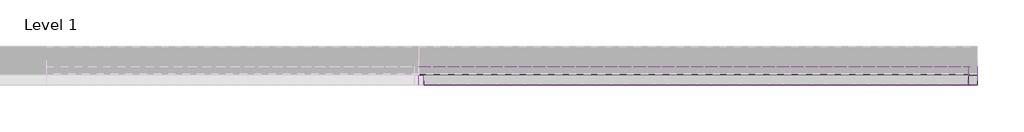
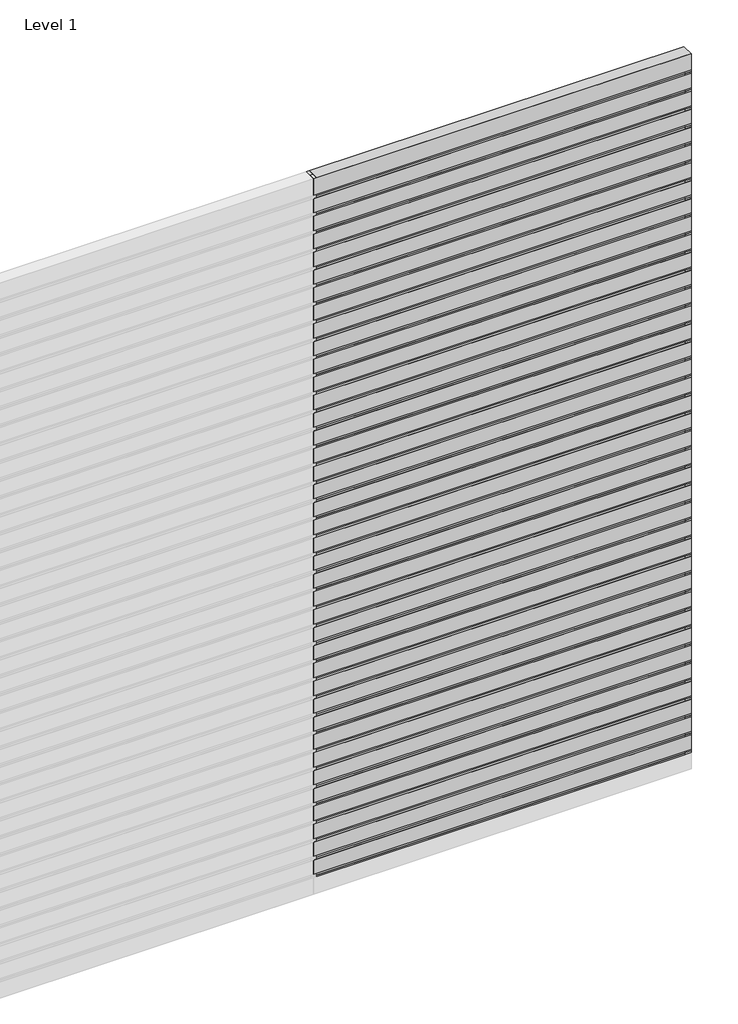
# One storey, part 3 of 3: 79 plates, 40 members.
"""IFC4 building model written with IfcOpenShell, lengths in millimetres."""

import ifcopenshell
import ifcopenshell.guid

model = None  # the IFC model being written
_history = None  # IfcOwnerHistory: only IFC2X3 demands one
_inside = {}  # id of a spatial element -> (the spatial element, [elements in it])
_under = {}  # id of a project, library or spatial element -> (it, [spatial elements below it])
_declared = {}  # id of a project -> (the project, [libraries it declares])
_typed = {}  # id of a type object -> (the type object, [elements of that type])
_made_of = {}  # id of a material, layer set ... -> (it, [elements and type objects made of it])


def new_model(schema):
    """Start an empty IFC model of exactly this schema.

    Asked for "IFC4X3", IfcOpenShell would pick the latest addendum, in which some entities
    have other attributes; the version numbers below select the first issue.
    IFC2X3 requires an IfcOwnerHistory on every rooted entity: one is made here for all.
    """
    global model, _history
    if schema == "IFC4X3":
        model = ifcopenshell.file(schema_version=(4, 3, 0, 0))
    else:
        model = ifcopenshell.file(schema=schema)
    _inside.clear()
    _under.clear()
    _declared.clear()
    _typed.clear()
    _made_of.clear()
    _history = None
    if model.schema == "IFC2X3":
        org = make("IfcOrganization", Name="unknown")
        user = make(
            "IfcPersonAndOrganization",
            ThePerson=make("IfcPerson", FamilyName="unknown"),
            TheOrganization=org,
        )
        app = make(
            "IfcApplication",
            ApplicationDeveloper=org,
            Version="unknown",
            ApplicationFullName="unknown",
            ApplicationIdentifier="unknown",
        )
        _history = make(
            "IfcOwnerHistory",
            OwningUser=user,
            OwningApplication=app,
            ChangeAction="ADDED",
            CreationDate=0,
        )
    return model


def make(cls, **values):
    """One entity of the class cls with the attributes given. An attribute that is None is left unset."""
    return model.create_entity(
        cls, **{name: value for name, value in values.items() if value is not None}
    )


def rooted(cls, **values):
    """An entity with a GlobalId (a new one), such as an element, a storey or a relation."""
    return make(cls, GlobalId=ifcopenshell.guid.new(), OwnerHistory=_history, **values)


def si_unit(unit_type, name, prefix=None):
    """IfcSIUnit, for example si_unit("LENGTHUNIT", "METRE", prefix="MILLI")."""
    return make("IfcSIUnit", UnitType=unit_type, Prefix=prefix, Name=name)


def assignment(units):
    """IfcUnitAssignment: the units of a project."""
    return None if units is None else make("IfcUnitAssignment", Units=units)


def point(xyz):
    """IfcCartesianPoint."""
    return None if xyz is None else make("IfcCartesianPoint", Coordinates=xyz)


def direction(xyz):
    """IfcDirection."""
    return None if xyz is None else make("IfcDirection", DirectionRatios=xyz)


def frame(location, z_axis=None, x_axis=None):
    """IfcAxis2Placement3D, a coordinate frame: its origin and axes. An axis left out is left unset."""
    return make(
        "IfcAxis2Placement3D",
        Location=point(location),
        Axis=direction(z_axis),
        RefDirection=direction(x_axis),
    )


def origin():
    """The frame at (0, 0, 0) with its axes left unset."""
    return frame((0.0, 0.0, 0.0))


def origin_with_axes():
    """The frame at (0, 0, 0) with the z axis (0, 0, 1) and the x axis (1, 0, 0) written out."""
    return frame((0.0, 0.0, 0.0), z_axis=(0.0, 0.0, 1.0), x_axis=(1.0, 0.0, 0.0))


def place(relative_to, where):
    """IfcLocalPlacement: puts the frame where relative to a parent placement (None: the world)."""
    return make(
        "IfcLocalPlacement", PlacementRelTo=relative_to, RelativePlacement=where
    )


def context(
    kind, dimensions, precision=None, world=None, true_north=None, identifier=None
):
    """IfcGeometricRepresentationContext, for example the 3D "Model" context."""
    return make(
        "IfcGeometricRepresentationContext",
        ContextIdentifier=identifier,
        ContextType=kind,
        CoordinateSpaceDimension=dimensions,
        Precision=precision,
        WorldCoordinateSystem=world,
        TrueNorth=true_north,
    )


def project(units=None, contexts=None):
    """IfcProject with its units and contexts."""
    return rooted(
        "IfcProject",
        Name="project",
        RepresentationContexts=contexts,
        UnitsInContext=assignment(units),
    )


def spatial(cls, under=None, at=None, **own):
    """A site, building, storey or space (cls), placed at a placement, below another one or the project."""
    s = rooted(cls, ObjectPlacement=at, **own)
    if under is not None:
        _under.setdefault(under.id(), (under, []))[1].append(s)
    return s


def polyline(points):
    """IfcPolyline through the points."""
    return make("IfcPolyline", Points=[point(p) for p in points])


def outline(outer, holes=None, kind="AREA"):
    """IfcArbitraryClosedProfileDef: a profile drawn as a closed curve; with holes, ...WithVoids."""
    if holes is None:
        return make("IfcArbitraryClosedProfileDef", ProfileType=kind, OuterCurve=outer)
    return make(
        "IfcArbitraryProfileDefWithVoids",
        ProfileType=kind,
        OuterCurve=outer,
        InnerCurves=holes,
    )


def extrude(swept, where, along, depth):
    """IfcExtrudedAreaSolid: the profile swept, set in the frame where, extruded along a direction by depth."""
    return make(
        "IfcExtrudedAreaSolid",
        SweptArea=swept,
        Position=where,
        ExtrudedDirection=direction(along),
        Depth=depth,
    )


def shape(context_of_items, identifier, shape_type, items):
    """IfcShapeRepresentation: the items that make up one representation, for example the "Body"."""
    return make(
        "IfcShapeRepresentation",
        ContextOfItems=context_of_items,
        RepresentationIdentifier=identifier,
        RepresentationType=shape_type,
        Items=items,
    )


def source(mapping_origin, context_of_items, identifier, shape_type, items):
    """IfcRepresentationMap: a shape defined once, which mapped items show again and again."""
    return make(
        "IfcRepresentationMap",
        MappingOrigin=mapping_origin,
        MappedRepresentation=shape(context_of_items, identifier, shape_type, items),
    )


def transform(
    local_origin,
    x_axis=None,
    y_axis=None,
    z_axis=None,
    scale=None,
    scale2=None,
    scale3=None,
    uniform=True,
):
    """IfcCartesianTransformationOperator3D, or its non-uniform kind. x_axis, y_axis, z_axis: its Axis1, 2, 3."""
    if uniform:
        return make(
            "IfcCartesianTransformationOperator3D",
            Axis1=direction(x_axis),
            Axis2=direction(y_axis),
            LocalOrigin=point(local_origin),
            Scale=scale,
            Axis3=direction(z_axis),
        )
    return make(
        "IfcCartesianTransformationOperator3DnonUniform",
        Axis1=direction(x_axis),
        Axis2=direction(y_axis),
        LocalOrigin=point(local_origin),
        Scale=scale,
        Axis3=direction(z_axis),
        Scale2=scale2,
        Scale3=scale3,
    )


def mapped(mapping_source, mapping_target):
    """IfcMappedItem: shows the shape of a source again, moved by a transform."""
    return make(
        "IfcMappedItem", MappingSource=mapping_source, MappingTarget=mapping_target
    )


def made_of(thing, what):
    """Note that an element or type object is made of a material, layer set ...; save() writes the relation."""
    if what is not None:
        _made_of.setdefault(what.id(), (what, []))[1].append(thing)
    return thing


def element(
    cls,
    number,
    at=None,
    inside=None,
    cuts=None,
    type_object=None,
    material=None,
    context=None,
    identifier="Body",
    shape_type=None,
    held_by="IfcProductDefinitionShape",
    body=None,
    shapes=None,
    **own,
):
    """One element of the class cls, such as IfcWall. Its Tag is "e" and its number.

    at: its placement. inside: the storey or other place that contains it. cuts: it is an
    opening in that element (IfcRelVoidsElement). A single representation is given by context,
    identifier, shape_type and body (its items); several are given by shapes. held_by: the class
    of the entity that holds the representations. save() writes the other relations.
    """
    e = rooted(cls, Tag="e%d" % number, ObjectPlacement=at, **own)
    if body is not None:
        shapes = [shape(context, identifier, shape_type, body)]
    if shapes is not None:
        e.Representation = make(held_by, Representations=shapes)
    if inside is not None:
        _inside.setdefault(inside.id(), (inside, []))[1].append(e)
    if cuts is not None:
        rooted(
            "IfcRelVoidsElement", RelatingBuildingElement=cuts, RelatedOpeningElement=e
        )
    if type_object is not None:
        _typed.setdefault(type_object.id(), (type_object, []))[1].append(e)
    return made_of(e, material)


def aggregate(whole, parts):
    """IfcRelAggregates: a whole, such as a stair, and the parts it consists of."""
    return rooted("IfcRelAggregates", RelatingObject=whole, RelatedObjects=parts)


def save(model, path):
    """Write the relations noted so far, then the file.

    IfcRelAggregates (storeys below a building ...), IfcRelContainedInSpatialStructure (elements
    in a storey), IfcRelDefinesByType, IfcRelAssociatesMaterial and IfcRelDeclares: one each for
    every whole, place, type object, material and project.
    """
    for whole, parts in _under.values():
        aggregate(whole, parts)
    for where, things in _inside.values():
        rooted(
            "IfcRelContainedInSpatialStructure",
            RelatedElements=things,
            RelatingStructure=where,
        )
    for kind, things in _typed.values():
        rooted("IfcRelDefinesByType", RelatedObjects=things, RelatingType=kind)
    for what, things in _made_of.values():
        rooted("IfcRelAssociatesMaterial", RelatedObjects=things, RelatingMaterial=what)
    for by, libraries in _declared.values():
        rooted("IfcRelDeclares", RelatingContext=by, RelatedDefinitions=libraries)
    model.write(path)


def rectangular_mullion_64cc6fdd(model_context):
    return source(origin(), model_context, "Body", "SweptSolid", [
        extrude(outline(polyline([(-50.0, 1.0), (0.0, 1.0), (0.0, -49.0), (-50.0, -49.0), (-50.0, 1.0)])), frame((0.0, 0.0, -150.0), z_axis=(0.0, 0.0, 1.0), x_axis=(1.0, 0.0, 0.0)), (0.0, 0.0, 1.0), 150.0),
    ])


def empty_system_panel_empty_50652f15(model_context):
    return source(origin(), model_context, "Body", "SweptSolid", [
        extrude(outline(polyline([(1500.0, -50.0), (-1500.0, -50.0), (-1500.0, 50.0), (1500.0, 50.0), (1500.0, -50.0)])), origin_with_axes(), (0.0, 0.0, 1.0), 135.0),
    ])


def empty_system_panel_empty_6fa24678(model_context):
    return source(origin(), model_context, "Body", "SweptSolid", [
        extrude(outline(polyline([(1500.0, -50.0), (-1500.0, -50.0), (-1500.0, 50.0), (1500.0, 50.0), (1500.0, -50.0)])), origin_with_axes(), (0.0, 0.0, 1.0), 120.0),
    ])


def empty_system_panel_empty_149e9d60(model_context):
    return source(origin(), model_context, "Body", "SweptSolid", [
        extrude(outline(polyline([(1462.5, -50.0), (-1462.5, -50.0), (-1462.5, 50.0), (1462.5, 50.0), (1462.5, -50.0)])), origin_with_axes(), (0.0, 0.0, 1.0), 150.0),
    ])


model = new_model("IFC4")

# Units and contexts
model_context = context("Model", 3, world=origin())
ifc_project = project(units=[si_unit("LENGTHUNIT", "METRE", prefix="MILLI")], contexts=[model_context])

# Site, building, storey
site = spatial("IfcSite", under=ifc_project)
building = spatial("IfcBuilding", under=site)
storey = spatial("IfcBuildingStorey", under=building, Name="Level 1", Elevation=0.0)

# Members
placement = place(None, origin())
rectangular_mullion_shape = rectangular_mullion_64cc6fdd(model_context)
element("IfcMember", 1, ObjectType="Rectangular Mullion : RSen_21_CWM_support profile 50x50 - right_gen_duco projects", at=placement, inside=storey, context=model_context, shape_type="MappedRepresentation", body=[
    mapped(rectangular_mullion_shape, transform((6000.0, 3000.0, 6000.0), x_axis=(1.0, 0.0, 0.0), y_axis=(0.0, 1.0, 0.0), z_axis=(0.0, 0.0, 1.0))),
])
element("IfcMember", 2, ObjectType="Rectangular Mullion : RSen_21_CWM_support profile 50x50 - right_gen_duco projects", at=placement, inside=storey, context=model_context, shape_type="MappedRepresentation", body=[
    mapped(rectangular_mullion_shape, transform((6000.0, 3000.0, 150.0), x_axis=(1.0, 0.0, 0.0), y_axis=(0.0, 1.0, 0.0), z_axis=(0.0, 0.0, 1.0))),
])
element("IfcMember", 3, ObjectType="Rectangular Mullion : RSen_21_CWM_support profile 50x50 - right_gen_duco projects", at=placement, inside=storey, context=model_context, shape_type="MappedRepresentation", body=[
    mapped(rectangular_mullion_shape, transform((6000.0, 3000.0, 300.0), x_axis=(1.0, 0.0, 0.0), y_axis=(0.0, 1.0, 0.0), z_axis=(0.0, 0.0, 1.0))),
])
element("IfcMember", 4, ObjectType="Rectangular Mullion : RSen_21_CWM_support profile 50x50 - right_gen_duco projects", at=placement, inside=storey, context=model_context, shape_type="MappedRepresentation", body=[
    mapped(rectangular_mullion_shape, transform((6000.0, 3000.0, 450.0), x_axis=(1.0, 0.0, 0.0), y_axis=(0.0, 1.0, 0.0), z_axis=(0.0, 0.0, 1.0))),
])
element("IfcMember", 5, ObjectType="Rectangular Mullion : RSen_21_CWM_support profile 50x50 - right_gen_duco projects", at=placement, inside=storey, context=model_context, shape_type="MappedRepresentation", body=[
    mapped(rectangular_mullion_shape, transform((6000.0, 3000.0, 600.0), x_axis=(1.0, 0.0, 0.0), y_axis=(0.0, 1.0, 0.0), z_axis=(0.0, 0.0, 1.0))),
])
element("IfcMember", 6, ObjectType="Rectangular Mullion : RSen_21_CWM_support profile 50x50 - right_gen_duco projects", at=placement, inside=storey, context=model_context, shape_type="MappedRepresentation", body=[
    mapped(rectangular_mullion_shape, transform((6000.0, 3000.0, 750.0), x_axis=(1.0, 0.0, 0.0), y_axis=(0.0, 1.0, 0.0), z_axis=(0.0, 0.0, 1.0))),
])
element("IfcMember", 7, ObjectType="Rectangular Mullion : RSen_21_CWM_support profile 50x50 - right_gen_duco projects", at=placement, inside=storey, context=model_context, shape_type="MappedRepresentation", body=[
    mapped(rectangular_mullion_shape, transform((6000.0, 3000.0, 900.0), x_axis=(1.0, 0.0, 0.0), y_axis=(0.0, 1.0, 0.0), z_axis=(0.0, 0.0, 1.0))),
])
element("IfcMember", 8, ObjectType="Rectangular Mullion : RSen_21_CWM_support profile 50x50 - right_gen_duco projects", at=placement, inside=storey, context=model_context, shape_type="MappedRepresentation", body=[
    mapped(rectangular_mullion_shape, transform((6000.0, 3000.0, 1050.0), x_axis=(1.0, 0.0, 0.0), y_axis=(0.0, 1.0, 0.0), z_axis=(0.0, 0.0, 1.0))),
])
element("IfcMember", 9, ObjectType="Rectangular Mullion : RSen_21_CWM_support profile 50x50 - right_gen_duco projects", at=placement, inside=storey, context=model_context, shape_type="MappedRepresentation", body=[
    mapped(rectangular_mullion_shape, transform((6000.0, 3000.0, 1200.0), x_axis=(1.0, 0.0, 0.0), y_axis=(0.0, 1.0, 0.0), z_axis=(0.0, 0.0, 1.0))),
])
element("IfcMember", 10, ObjectType="Rectangular Mullion : RSen_21_CWM_support profile 50x50 - right_gen_duco projects", at=placement, inside=storey, context=model_context, shape_type="MappedRepresentation", body=[
    mapped(rectangular_mullion_shape, transform((6000.0, 3000.0, 1350.0), x_axis=(1.0, 0.0, 0.0), y_axis=(0.0, 1.0, 0.0), z_axis=(0.0, 0.0, 1.0))),
])
element("IfcMember", 11, ObjectType="Rectangular Mullion : RSen_21_CWM_support profile 50x50 - right_gen_duco projects", at=placement, inside=storey, context=model_context, shape_type="MappedRepresentation", body=[
    mapped(rectangular_mullion_shape, transform((6000.0, 3000.0, 1500.0), x_axis=(1.0, 0.0, 0.0), y_axis=(0.0, 1.0, 0.0), z_axis=(0.0, 0.0, 1.0))),
])
element("IfcMember", 12, ObjectType="Rectangular Mullion : RSen_21_CWM_support profile 50x50 - right_gen_duco projects", at=placement, inside=storey, context=model_context, shape_type="MappedRepresentation", body=[
    mapped(rectangular_mullion_shape, transform((6000.0, 3000.0, 1650.0), x_axis=(1.0, 0.0, 0.0), y_axis=(0.0, 1.0, 0.0), z_axis=(0.0, 0.0, 1.0))),
])
element("IfcMember", 13, ObjectType="Rectangular Mullion : RSen_21_CWM_support profile 50x50 - right_gen_duco projects", at=placement, inside=storey, context=model_context, shape_type="MappedRepresentation", body=[
    mapped(rectangular_mullion_shape, transform((6000.0, 3000.0, 1800.0), x_axis=(1.0, 0.0, 0.0), y_axis=(0.0, 1.0, 0.0), z_axis=(0.0, 0.0, 1.0))),
])
element("IfcMember", 14, ObjectType="Rectangular Mullion : RSen_21_CWM_support profile 50x50 - right_gen_duco projects", at=placement, inside=storey, context=model_context, shape_type="MappedRepresentation", body=[
    mapped(rectangular_mullion_shape, transform((6000.0, 3000.0, 1950.0), x_axis=(1.0, 0.0, 0.0), y_axis=(0.0, 1.0, 0.0), z_axis=(0.0, 0.0, 1.0))),
])
element("IfcMember", 15, ObjectType="Rectangular Mullion : RSen_21_CWM_support profile 50x50 - right_gen_duco projects", at=placement, inside=storey, context=model_context, shape_type="MappedRepresentation", body=[
    mapped(rectangular_mullion_shape, transform((6000.0, 3000.0, 2100.0), x_axis=(1.0, 0.0, 0.0), y_axis=(0.0, 1.0, 0.0), z_axis=(0.0, 0.0, 1.0))),
])
element("IfcMember", 16, ObjectType="Rectangular Mullion : RSen_21_CWM_support profile 50x50 - right_gen_duco projects", at=placement, inside=storey, context=model_context, shape_type="MappedRepresentation", body=[
    mapped(rectangular_mullion_shape, transform((6000.0, 3000.0, 2250.0), x_axis=(1.0, 0.0, 0.0), y_axis=(0.0, 1.0, 0.0), z_axis=(0.0, 0.0, 1.0))),
])
element("IfcMember", 17, ObjectType="Rectangular Mullion : RSen_21_CWM_support profile 50x50 - right_gen_duco projects", at=placement, inside=storey, context=model_context, shape_type="MappedRepresentation", body=[
    mapped(rectangular_mullion_shape, transform((6000.0, 3000.0, 2400.0), x_axis=(1.0, 0.0, 0.0), y_axis=(0.0, 1.0, 0.0), z_axis=(0.0, 0.0, 1.0))),
])
element("IfcMember", 18, ObjectType="Rectangular Mullion : RSen_21_CWM_support profile 50x50 - right_gen_duco projects", at=placement, inside=storey, context=model_context, shape_type="MappedRepresentation", body=[
    mapped(rectangular_mullion_shape, transform((6000.0, 3000.0, 2550.0), x_axis=(1.0, 0.0, 0.0), y_axis=(0.0, 1.0, 0.0), z_axis=(0.0, 0.0, 1.0))),
])
element("IfcMember", 19, ObjectType="Rectangular Mullion : RSen_21_CWM_support profile 50x50 - right_gen_duco projects", at=placement, inside=storey, context=model_context, shape_type="MappedRepresentation", body=[
    mapped(rectangular_mullion_shape, transform((6000.0, 3000.0, 2700.0), x_axis=(1.0, 0.0, 0.0), y_axis=(0.0, 1.0, 0.0), z_axis=(0.0, 0.0, 1.0))),
])
element("IfcMember", 20, ObjectType="Rectangular Mullion : RSen_21_CWM_support profile 50x50 - right_gen_duco projects", at=placement, inside=storey, context=model_context, shape_type="MappedRepresentation", body=[
    mapped(rectangular_mullion_shape, transform((6000.0, 3000.0, 2850.0), x_axis=(1.0, 0.0, 0.0), y_axis=(0.0, 1.0, 0.0), z_axis=(0.0, 0.0, 1.0))),
])
element("IfcMember", 21, ObjectType="Rectangular Mullion : RSen_21_CWM_support profile 50x50 - right_gen_duco projects", at=placement, inside=storey, context=model_context, shape_type="MappedRepresentation", body=[
    mapped(rectangular_mullion_shape, transform((6000.0, 3000.0, 3000.0), x_axis=(1.0, 0.0, 0.0), y_axis=(0.0, 1.0, 0.0), z_axis=(0.0, 0.0, 1.0))),
])
element("IfcMember", 22, ObjectType="Rectangular Mullion : RSen_21_CWM_support profile 50x50 - right_gen_duco projects", at=placement, inside=storey, context=model_context, shape_type="MappedRepresentation", body=[
    mapped(rectangular_mullion_shape, transform((6000.0, 3000.0, 3150.0), x_axis=(1.0, 0.0, 0.0), y_axis=(0.0, 1.0, 0.0), z_axis=(0.0, 0.0, 1.0))),
])
element("IfcMember", 23, ObjectType="Rectangular Mullion : RSen_21_CWM_support profile 50x50 - right_gen_duco projects", at=placement, inside=storey, context=model_context, shape_type="MappedRepresentation", body=[
    mapped(rectangular_mullion_shape, transform((6000.0, 3000.0, 3300.0), x_axis=(1.0, 0.0, 0.0), y_axis=(0.0, 1.0, 0.0), z_axis=(0.0, 0.0, 1.0))),
])
element("IfcMember", 24, ObjectType="Rectangular Mullion : RSen_21_CWM_support profile 50x50 - right_gen_duco projects", at=placement, inside=storey, context=model_context, shape_type="MappedRepresentation", body=[
    mapped(rectangular_mullion_shape, transform((6000.0, 3000.0, 3450.0), x_axis=(1.0, 0.0, 0.0), y_axis=(0.0, 1.0, 0.0), z_axis=(0.0, 0.0, 1.0))),
])
element("IfcMember", 25, ObjectType="Rectangular Mullion : RSen_21_CWM_support profile 50x50 - right_gen_duco projects", at=placement, inside=storey, context=model_context, shape_type="MappedRepresentation", body=[
    mapped(rectangular_mullion_shape, transform((6000.0, 3000.0, 3600.0), x_axis=(1.0, 0.0, 0.0), y_axis=(0.0, 1.0, 0.0), z_axis=(0.0, 0.0, 1.0))),
])
element("IfcMember", 26, ObjectType="Rectangular Mullion : RSen_21_CWM_support profile 50x50 - right_gen_duco projects", at=placement, inside=storey, context=model_context, shape_type="MappedRepresentation", body=[
    mapped(rectangular_mullion_shape, transform((6000.0, 3000.0, 3750.0), x_axis=(1.0, 0.0, 0.0), y_axis=(0.0, 1.0, 0.0), z_axis=(0.0, 0.0, 1.0))),
])
element("IfcMember", 27, ObjectType="Rectangular Mullion : RSen_21_CWM_support profile 50x50 - right_gen_duco projects", at=placement, inside=storey, context=model_context, shape_type="MappedRepresentation", body=[
    mapped(rectangular_mullion_shape, transform((6000.0, 3000.0, 3900.0), x_axis=(1.0, 0.0, 0.0), y_axis=(0.0, 1.0, 0.0), z_axis=(0.0, 0.0, 1.0))),
])
element("IfcMember", 28, ObjectType="Rectangular Mullion : RSen_21_CWM_support profile 50x50 - right_gen_duco projects", at=placement, inside=storey, context=model_context, shape_type="MappedRepresentation", body=[
    mapped(rectangular_mullion_shape, transform((6000.0, 3000.0, 4050.0), x_axis=(1.0, 0.0, 0.0), y_axis=(0.0, 1.0, 0.0), z_axis=(0.0, 0.0, 1.0))),
])
element("IfcMember", 29, ObjectType="Rectangular Mullion : RSen_21_CWM_support profile 50x50 - right_gen_duco projects", at=placement, inside=storey, context=model_context, shape_type="MappedRepresentation", body=[
    mapped(rectangular_mullion_shape, transform((6000.0, 3000.0, 4200.0), x_axis=(1.0, 0.0, 0.0), y_axis=(0.0, 1.0, 0.0), z_axis=(0.0, 0.0, 1.0))),
])
element("IfcMember", 30, ObjectType="Rectangular Mullion : RSen_21_CWM_support profile 50x50 - right_gen_duco projects", at=placement, inside=storey, context=model_context, shape_type="MappedRepresentation", body=[
    mapped(rectangular_mullion_shape, transform((6000.0, 3000.0, 4350.0), x_axis=(1.0, 0.0, 0.0), y_axis=(0.0, 1.0, 0.0), z_axis=(0.0, 0.0, 1.0))),
])
element("IfcMember", 31, ObjectType="Rectangular Mullion : RSen_21_CWM_support profile 50x50 - right_gen_duco projects", at=placement, inside=storey, context=model_context, shape_type="MappedRepresentation", body=[
    mapped(rectangular_mullion_shape, transform((6000.0, 3000.0, 4500.0), x_axis=(1.0, 0.0, 0.0), y_axis=(0.0, 1.0, 0.0), z_axis=(0.0, 0.0, 1.0))),
])
element("IfcMember", 32, ObjectType="Rectangular Mullion : RSen_21_CWM_support profile 50x50 - right_gen_duco projects", at=placement, inside=storey, context=model_context, shape_type="MappedRepresentation", body=[
    mapped(rectangular_mullion_shape, transform((6000.0, 3000.0, 4650.0), x_axis=(1.0, 0.0, 0.0), y_axis=(0.0, 1.0, 0.0), z_axis=(0.0, 0.0, 1.0))),
])
element("IfcMember", 33, ObjectType="Rectangular Mullion : RSen_21_CWM_support profile 50x50 - right_gen_duco projects", at=placement, inside=storey, context=model_context, shape_type="MappedRepresentation", body=[
    mapped(rectangular_mullion_shape, transform((6000.0, 3000.0, 4800.0), x_axis=(1.0, 0.0, 0.0), y_axis=(0.0, 1.0, 0.0), z_axis=(0.0, 0.0, 1.0))),
])
element("IfcMember", 34, ObjectType="Rectangular Mullion : RSen_21_CWM_support profile 50x50 - right_gen_duco projects", at=placement, inside=storey, context=model_context, shape_type="MappedRepresentation", body=[
    mapped(rectangular_mullion_shape, transform((6000.0, 3000.0, 4950.0), x_axis=(1.0, 0.0, 0.0), y_axis=(0.0, 1.0, 0.0), z_axis=(0.0, 0.0, 1.0))),
])
element("IfcMember", 35, ObjectType="Rectangular Mullion : RSen_21_CWM_support profile 50x50 - right_gen_duco projects", at=placement, inside=storey, context=model_context, shape_type="MappedRepresentation", body=[
    mapped(rectangular_mullion_shape, transform((6000.0, 3000.0, 5100.0), x_axis=(1.0, 0.0, 0.0), y_axis=(0.0, 1.0, 0.0), z_axis=(0.0, 0.0, 1.0))),
])
element("IfcMember", 36, ObjectType="Rectangular Mullion : RSen_21_CWM_support profile 50x50 - right_gen_duco projects", at=placement, inside=storey, context=model_context, shape_type="MappedRepresentation", body=[
    mapped(rectangular_mullion_shape, transform((6000.0, 3000.0, 5250.0), x_axis=(1.0, 0.0, 0.0), y_axis=(0.0, 1.0, 0.0), z_axis=(0.0, 0.0, 1.0))),
])
element("IfcMember", 37, ObjectType="Rectangular Mullion : RSen_21_CWM_support profile 50x50 - right_gen_duco projects", at=placement, inside=storey, context=model_context, shape_type="MappedRepresentation", body=[
    mapped(rectangular_mullion_shape, transform((6000.0, 3000.0, 5400.0), x_axis=(1.0, 0.0, 0.0), y_axis=(0.0, 1.0, 0.0), z_axis=(0.0, 0.0, 1.0))),
])
element("IfcMember", 38, ObjectType="Rectangular Mullion : RSen_21_CWM_support profile 50x50 - right_gen_duco projects", at=placement, inside=storey, context=model_context, shape_type="MappedRepresentation", body=[
    mapped(rectangular_mullion_shape, transform((6000.0, 3000.0, 5550.0), x_axis=(1.0, 0.0, 0.0), y_axis=(0.0, 1.0, 0.0), z_axis=(0.0, 0.0, 1.0))),
])
element("IfcMember", 39, ObjectType="Rectangular Mullion : RSen_21_CWM_support profile 50x50 - right_gen_duco projects", at=placement, inside=storey, context=model_context, shape_type="MappedRepresentation", body=[
    mapped(rectangular_mullion_shape, transform((6000.0, 3000.0, 5700.0), x_axis=(1.0, 0.0, 0.0), y_axis=(0.0, 1.0, 0.0), z_axis=(0.0, 0.0, 1.0))),
])
element("IfcMember", 40, ObjectType="Rectangular Mullion : RSen_21_CWM_support profile 50x50 - right_gen_duco projects", at=placement, inside=storey, context=model_context, shape_type="MappedRepresentation", body=[
    mapped(rectangular_mullion_shape, transform((6000.0, 3000.0, 5850.0), x_axis=(1.0, 0.0, 0.0), y_axis=(0.0, 1.0, 0.0), z_axis=(0.0, 0.0, 1.0))),
])

# Plates
empty_system_panel_empty_shape = empty_system_panel_empty_50652f15(model_context)
element("IfcPlate", 41, ObjectType="Empty System Panel : Empty", at=placement, inside=storey, context=model_context, shape_type="MappedRepresentation", body=[
    mapped(empty_system_panel_empty_shape, transform((4500.0, 3000.0, 5865.0), x_axis=(-1.0, 0.0, 0.0), y_axis=(0.0, -1.0, 0.0), z_axis=(0.0, 0.0, 1.0))),
])
empty_system_panel_empty_2_shape = empty_system_panel_empty_6fa24678(model_context)
element("IfcPlate", 42, ObjectType="Empty System Panel : Empty", at=placement, inside=storey, context=model_context, shape_type="MappedRepresentation", body=[
    mapped(empty_system_panel_empty_2_shape, transform((4500.0, 3000.0, 165.0), x_axis=(-1.0, 0.0, 0.0), y_axis=(0.0, -1.0, 0.0), z_axis=(0.0, 0.0, 1.0))),
])
element("IfcPlate", 43, ObjectType="Empty System Panel : Empty", at=placement, inside=storey, context=model_context, shape_type="MappedRepresentation", body=[
    mapped(empty_system_panel_empty_2_shape, transform((4500.0, 3000.0, 315.0), x_axis=(-1.0, 0.0, 0.0), y_axis=(0.0, -1.0, 0.0), z_axis=(0.0, 0.0, 1.0))),
])
element("IfcPlate", 44, ObjectType="Empty System Panel : Empty", at=placement, inside=storey, context=model_context, shape_type="MappedRepresentation", body=[
    mapped(empty_system_panel_empty_2_shape, transform((4500.0, 3000.0, 465.0), x_axis=(-1.0, 0.0, 0.0), y_axis=(0.0, -1.0, 0.0), z_axis=(0.0, 0.0, 1.0))),
])
element("IfcPlate", 45, ObjectType="Empty System Panel : Empty", at=placement, inside=storey, context=model_context, shape_type="MappedRepresentation", body=[
    mapped(empty_system_panel_empty_2_shape, transform((4500.0, 3000.0, 615.0), x_axis=(-1.0, 0.0, 0.0), y_axis=(0.0, -1.0, 0.0), z_axis=(0.0, 0.0, 1.0))),
])
element("IfcPlate", 46, ObjectType="Empty System Panel : Empty", at=placement, inside=storey, context=model_context, shape_type="MappedRepresentation", body=[
    mapped(empty_system_panel_empty_2_shape, transform((4500.0, 3000.0, 765.0), x_axis=(-1.0, 0.0, 0.0), y_axis=(0.0, -1.0, 0.0), z_axis=(0.0, 0.0, 1.0))),
])
element("IfcPlate", 47, ObjectType="Empty System Panel : Empty", at=placement, inside=storey, context=model_context, shape_type="MappedRepresentation", body=[
    mapped(empty_system_panel_empty_2_shape, transform((4500.0, 3000.0, 915.0), x_axis=(-1.0, 0.0, 0.0), y_axis=(0.0, -1.0, 0.0), z_axis=(0.0, 0.0, 1.0))),
])
element("IfcPlate", 48, ObjectType="Empty System Panel : Empty", at=placement, inside=storey, context=model_context, shape_type="MappedRepresentation", body=[
    mapped(empty_system_panel_empty_2_shape, transform((4500.0, 3000.0, 1065.0), x_axis=(-1.0, 0.0, 0.0), y_axis=(0.0, -1.0, 0.0), z_axis=(0.0, 0.0, 1.0))),
])
element("IfcPlate", 49, ObjectType="Empty System Panel : Empty", at=placement, inside=storey, context=model_context, shape_type="MappedRepresentation", body=[
    mapped(empty_system_panel_empty_2_shape, transform((4500.0, 3000.0, 1215.0), x_axis=(-1.0, 0.0, 0.0), y_axis=(0.0, -1.0, 0.0), z_axis=(0.0, 0.0, 1.0))),
])
element("IfcPlate", 50, ObjectType="Empty System Panel : Empty", at=placement, inside=storey, context=model_context, shape_type="MappedRepresentation", body=[
    mapped(empty_system_panel_empty_2_shape, transform((4500.0, 3000.0, 1365.0), x_axis=(-1.0, 0.0, 0.0), y_axis=(0.0, -1.0, 0.0), z_axis=(0.0, 0.0, 1.0))),
])
element("IfcPlate", 51, ObjectType="Empty System Panel : Empty", at=placement, inside=storey, context=model_context, shape_type="MappedRepresentation", body=[
    mapped(empty_system_panel_empty_2_shape, transform((4500.0, 3000.0, 1515.0), x_axis=(-1.0, 0.0, 0.0), y_axis=(0.0, -1.0, 0.0), z_axis=(0.0, 0.0, 1.0))),
])
element("IfcPlate", 52, ObjectType="Empty System Panel : Empty", at=placement, inside=storey, context=model_context, shape_type="MappedRepresentation", body=[
    mapped(empty_system_panel_empty_2_shape, transform((4500.0, 3000.0, 1665.0), x_axis=(-1.0, 0.0, 0.0), y_axis=(0.0, -1.0, 0.0), z_axis=(0.0, 0.0, 1.0))),
])
element("IfcPlate", 53, ObjectType="Empty System Panel : Empty", at=placement, inside=storey, context=model_context, shape_type="MappedRepresentation", body=[
    mapped(empty_system_panel_empty_2_shape, transform((4500.0, 3000.0, 1815.0), x_axis=(-1.0, 0.0, 0.0), y_axis=(0.0, -1.0, 0.0), z_axis=(0.0, 0.0, 1.0))),
])
element("IfcPlate", 54, ObjectType="Empty System Panel : Empty", at=placement, inside=storey, context=model_context, shape_type="MappedRepresentation", body=[
    mapped(empty_system_panel_empty_2_shape, transform((4500.0, 3000.0, 1965.0), x_axis=(-1.0, 0.0, 0.0), y_axis=(0.0, -1.0, 0.0), z_axis=(0.0, 0.0, 1.0))),
])
element("IfcPlate", 55, ObjectType="Empty System Panel : Empty", at=placement, inside=storey, context=model_context, shape_type="MappedRepresentation", body=[
    mapped(empty_system_panel_empty_2_shape, transform((4500.0, 3000.0, 2115.0), x_axis=(-1.0, 0.0, 0.0), y_axis=(0.0, -1.0, 0.0), z_axis=(0.0, 0.0, 1.0))),
])
element("IfcPlate", 56, ObjectType="Empty System Panel : Empty", at=placement, inside=storey, context=model_context, shape_type="MappedRepresentation", body=[
    mapped(empty_system_panel_empty_2_shape, transform((4500.0, 3000.0, 2265.0), x_axis=(-1.0, 0.0, 0.0), y_axis=(0.0, -1.0, 0.0), z_axis=(0.0, 0.0, 1.0))),
])
element("IfcPlate", 57, ObjectType="Empty System Panel : Empty", at=placement, inside=storey, context=model_context, shape_type="MappedRepresentation", body=[
    mapped(empty_system_panel_empty_2_shape, transform((4500.0, 3000.0, 2415.0), x_axis=(-1.0, 0.0, 0.0), y_axis=(0.0, -1.0, 0.0), z_axis=(0.0, 0.0, 1.0))),
])
element("IfcPlate", 58, ObjectType="Empty System Panel : Empty", at=placement, inside=storey, context=model_context, shape_type="MappedRepresentation", body=[
    mapped(empty_system_panel_empty_2_shape, transform((4500.0, 3000.0, 2565.0), x_axis=(-1.0, 0.0, 0.0), y_axis=(0.0, -1.0, 0.0), z_axis=(0.0, 0.0, 1.0))),
])
element("IfcPlate", 59, ObjectType="Empty System Panel : Empty", at=placement, inside=storey, context=model_context, shape_type="MappedRepresentation", body=[
    mapped(empty_system_panel_empty_2_shape, transform((4500.0, 3000.0, 2715.0), x_axis=(-1.0, 0.0, 0.0), y_axis=(0.0, -1.0, 0.0), z_axis=(0.0, 0.0, 1.0))),
])
element("IfcPlate", 60, ObjectType="Empty System Panel : Empty", at=placement, inside=storey, context=model_context, shape_type="MappedRepresentation", body=[
    mapped(empty_system_panel_empty_2_shape, transform((4500.0, 3000.0, 2865.0), x_axis=(-1.0, 0.0, 0.0), y_axis=(0.0, -1.0, 0.0), z_axis=(0.0, 0.0, 1.0))),
])
element("IfcPlate", 61, ObjectType="Empty System Panel : Empty", at=placement, inside=storey, context=model_context, shape_type="MappedRepresentation", body=[
    mapped(empty_system_panel_empty_2_shape, transform((4500.0, 3000.0, 3015.0), x_axis=(-1.0, 0.0, 0.0), y_axis=(0.0, -1.0, 0.0), z_axis=(0.0, 0.0, 1.0))),
])
element("IfcPlate", 62, ObjectType="Empty System Panel : Empty", at=placement, inside=storey, context=model_context, shape_type="MappedRepresentation", body=[
    mapped(empty_system_panel_empty_2_shape, transform((4500.0, 3000.0, 3165.0), x_axis=(-1.0, 0.0, 0.0), y_axis=(0.0, -1.0, 0.0), z_axis=(0.0, 0.0, 1.0))),
])
element("IfcPlate", 63, ObjectType="Empty System Panel : Empty", at=placement, inside=storey, context=model_context, shape_type="MappedRepresentation", body=[
    mapped(empty_system_panel_empty_2_shape, transform((4500.0, 3000.0, 3315.0), x_axis=(-1.0, 0.0, 0.0), y_axis=(0.0, -1.0, 0.0), z_axis=(0.0, 0.0, 1.0))),
])
element("IfcPlate", 64, ObjectType="Empty System Panel : Empty", at=placement, inside=storey, context=model_context, shape_type="MappedRepresentation", body=[
    mapped(empty_system_panel_empty_2_shape, transform((4500.0, 3000.0, 3465.0), x_axis=(-1.0, 0.0, 0.0), y_axis=(0.0, -1.0, 0.0), z_axis=(0.0, 0.0, 1.0))),
])
element("IfcPlate", 65, ObjectType="Empty System Panel : Empty", at=placement, inside=storey, context=model_context, shape_type="MappedRepresentation", body=[
    mapped(empty_system_panel_empty_2_shape, transform((4500.0, 3000.0, 3615.0), x_axis=(-1.0, 0.0, 0.0), y_axis=(0.0, -1.0, 0.0), z_axis=(0.0, 0.0, 1.0))),
])
element("IfcPlate", 66, ObjectType="Empty System Panel : Empty", at=placement, inside=storey, context=model_context, shape_type="MappedRepresentation", body=[
    mapped(empty_system_panel_empty_2_shape, transform((4500.0, 3000.0, 3765.0), x_axis=(-1.0, 0.0, 0.0), y_axis=(0.0, -1.0, 0.0), z_axis=(0.0, 0.0, 1.0))),
])
element("IfcPlate", 67, ObjectType="Empty System Panel : Empty", at=placement, inside=storey, context=model_context, shape_type="MappedRepresentation", body=[
    mapped(empty_system_panel_empty_2_shape, transform((4500.0, 3000.0, 3915.0), x_axis=(-1.0, 0.0, 0.0), y_axis=(0.0, -1.0, 0.0), z_axis=(0.0, 0.0, 1.0))),
])
element("IfcPlate", 68, ObjectType="Empty System Panel : Empty", at=placement, inside=storey, context=model_context, shape_type="MappedRepresentation", body=[
    mapped(empty_system_panel_empty_2_shape, transform((4500.0, 3000.0, 4065.0), x_axis=(-1.0, 0.0, 0.0), y_axis=(0.0, -1.0, 0.0), z_axis=(0.0, 0.0, 1.0))),
])
element("IfcPlate", 69, ObjectType="Empty System Panel : Empty", at=placement, inside=storey, context=model_context, shape_type="MappedRepresentation", body=[
    mapped(empty_system_panel_empty_2_shape, transform((4500.0, 3000.0, 4215.0), x_axis=(-1.0, 0.0, 0.0), y_axis=(0.0, -1.0, 0.0), z_axis=(0.0, 0.0, 1.0))),
])
element("IfcPlate", 70, ObjectType="Empty System Panel : Empty", at=placement, inside=storey, context=model_context, shape_type="MappedRepresentation", body=[
    mapped(empty_system_panel_empty_2_shape, transform((4500.0, 3000.0, 4365.0), x_axis=(-1.0, 0.0, 0.0), y_axis=(0.0, -1.0, 0.0), z_axis=(0.0, 0.0, 1.0))),
])
element("IfcPlate", 71, ObjectType="Empty System Panel : Empty", at=placement, inside=storey, context=model_context, shape_type="MappedRepresentation", body=[
    mapped(empty_system_panel_empty_2_shape, transform((4500.0, 3000.0, 4515.0), x_axis=(-1.0, 0.0, 0.0), y_axis=(0.0, -1.0, 0.0), z_axis=(0.0, 0.0, 1.0))),
])
element("IfcPlate", 72, ObjectType="Empty System Panel : Empty", at=placement, inside=storey, context=model_context, shape_type="MappedRepresentation", body=[
    mapped(empty_system_panel_empty_2_shape, transform((4500.0, 3000.0, 4665.0), x_axis=(-1.0, 0.0, 0.0), y_axis=(0.0, -1.0, 0.0), z_axis=(0.0, 0.0, 1.0))),
])
element("IfcPlate", 73, ObjectType="Empty System Panel : Empty", at=placement, inside=storey, context=model_context, shape_type="MappedRepresentation", body=[
    mapped(empty_system_panel_empty_2_shape, transform((4500.0, 3000.0, 4815.0), x_axis=(-1.0, 0.0, 0.0), y_axis=(0.0, -1.0, 0.0), z_axis=(0.0, 0.0, 1.0))),
])
element("IfcPlate", 74, ObjectType="Empty System Panel : Empty", at=placement, inside=storey, context=model_context, shape_type="MappedRepresentation", body=[
    mapped(empty_system_panel_empty_2_shape, transform((4500.0, 3000.0, 4965.0), x_axis=(-1.0, 0.0, 0.0), y_axis=(0.0, -1.0, 0.0), z_axis=(0.0, 0.0, 1.0))),
])
element("IfcPlate", 75, ObjectType="Empty System Panel : Empty", at=placement, inside=storey, context=model_context, shape_type="MappedRepresentation", body=[
    mapped(empty_system_panel_empty_2_shape, transform((4500.0, 3000.0, 5115.0), x_axis=(-1.0, 0.0, 0.0), y_axis=(0.0, -1.0, 0.0), z_axis=(0.0, 0.0, 1.0))),
])
element("IfcPlate", 76, ObjectType="Empty System Panel : Empty", at=placement, inside=storey, context=model_context, shape_type="MappedRepresentation", body=[
    mapped(empty_system_panel_empty_2_shape, transform((4500.0, 3000.0, 5265.0), x_axis=(-1.0, 0.0, 0.0), y_axis=(0.0, -1.0, 0.0), z_axis=(0.0, 0.0, 1.0))),
])
element("IfcPlate", 77, ObjectType="Empty System Panel : Empty", at=placement, inside=storey, context=model_context, shape_type="MappedRepresentation", body=[
    mapped(empty_system_panel_empty_2_shape, transform((4500.0, 3000.0, 5415.0), x_axis=(-1.0, 0.0, 0.0), y_axis=(0.0, -1.0, 0.0), z_axis=(0.0, 0.0, 1.0))),
])
element("IfcPlate", 78, ObjectType="Empty System Panel : Empty", at=placement, inside=storey, context=model_context, shape_type="MappedRepresentation", body=[
    mapped(empty_system_panel_empty_2_shape, transform((4500.0, 3000.0, 5565.0), x_axis=(-1.0, 0.0, 0.0), y_axis=(0.0, -1.0, 0.0), z_axis=(0.0, 0.0, 1.0))),
])
element("IfcPlate", 79, ObjectType="Empty System Panel : Empty", at=placement, inside=storey, context=model_context, shape_type="MappedRepresentation", body=[
    mapped(empty_system_panel_empty_2_shape, transform((4500.0, 3000.0, 5715.0), x_axis=(-1.0, 0.0, 0.0), y_axis=(0.0, -1.0, 0.0), z_axis=(0.0, 0.0, 1.0))),
])
empty_system_panel_empty_3_shape = empty_system_panel_empty_149e9d60(model_context)
element("IfcPlate", 80, ObjectType="Empty System Panel : Empty", at=placement, inside=storey, context=model_context, shape_type="MappedRepresentation", body=[
    mapped(empty_system_panel_empty_3_shape, transform((4487.5, 3000.0, 0.0), x_axis=(-1.0, 0.0, 0.0), y_axis=(0.0, -1.0, 0.0), z_axis=(0.0, 0.0, 1.0))),
])
element("IfcPlate", 81, ObjectType="Empty System Panel : Empty", at=placement, inside=storey, context=model_context, shape_type="MappedRepresentation", body=[
    mapped(empty_system_panel_empty_3_shape, transform((4487.5, 3000.0, 150.0), x_axis=(-1.0, 0.0, 0.0), y_axis=(0.0, -1.0, 0.0), z_axis=(0.0, 0.0, 1.0))),
])
element("IfcPlate", 82, ObjectType="Empty System Panel : Empty", at=placement, inside=storey, context=model_context, shape_type="MappedRepresentation", body=[
    mapped(empty_system_panel_empty_3_shape, transform((4487.5, 3000.0, 300.0), x_axis=(-1.0, 0.0, 0.0), y_axis=(0.0, -1.0, 0.0), z_axis=(0.0, 0.0, 1.0))),
])
element("IfcPlate", 83, ObjectType="Empty System Panel : Empty", at=placement, inside=storey, context=model_context, shape_type="MappedRepresentation", body=[
    mapped(empty_system_panel_empty_3_shape, transform((4487.5, 3000.0, 450.0), x_axis=(-1.0, 0.0, 0.0), y_axis=(0.0, -1.0, 0.0), z_axis=(0.0, 0.0, 1.0))),
])
element("IfcPlate", 84, ObjectType="Empty System Panel : Empty", at=placement, inside=storey, context=model_context, shape_type="MappedRepresentation", body=[
    mapped(empty_system_panel_empty_3_shape, transform((4487.5, 3000.0, 600.0), x_axis=(-1.0, 0.0, 0.0), y_axis=(0.0, -1.0, 0.0), z_axis=(0.0, 0.0, 1.0))),
])
element("IfcPlate", 85, ObjectType="Empty System Panel : Empty", at=placement, inside=storey, context=model_context, shape_type="MappedRepresentation", body=[
    mapped(empty_system_panel_empty_3_shape, transform((4487.5, 3000.0, 750.0), x_axis=(-1.0, 0.0, 0.0), y_axis=(0.0, -1.0, 0.0), z_axis=(0.0, 0.0, 1.0))),
])
element("IfcPlate", 86, ObjectType="Empty System Panel : Empty", at=placement, inside=storey, context=model_context, shape_type="MappedRepresentation", body=[
    mapped(empty_system_panel_empty_3_shape, transform((4487.5, 3000.0, 900.0), x_axis=(-1.0, 0.0, 0.0), y_axis=(0.0, -1.0, 0.0), z_axis=(0.0, 0.0, 1.0))),
])
element("IfcPlate", 87, ObjectType="Empty System Panel : Empty", at=placement, inside=storey, context=model_context, shape_type="MappedRepresentation", body=[
    mapped(empty_system_panel_empty_3_shape, transform((4487.5, 3000.0, 1050.0), x_axis=(-1.0, 0.0, 0.0), y_axis=(0.0, -1.0, 0.0), z_axis=(0.0, 0.0, 1.0))),
])
element("IfcPlate", 88, ObjectType="Empty System Panel : Empty", at=placement, inside=storey, context=model_context, shape_type="MappedRepresentation", body=[
    mapped(empty_system_panel_empty_3_shape, transform((4487.5, 3000.0, 1200.0), x_axis=(-1.0, 0.0, 0.0), y_axis=(0.0, -1.0, 0.0), z_axis=(0.0, 0.0, 1.0))),
])
element("IfcPlate", 89, ObjectType="Empty System Panel : Empty", at=placement, inside=storey, context=model_context, shape_type="MappedRepresentation", body=[
    mapped(empty_system_panel_empty_3_shape, transform((4487.5, 3000.0, 1350.0), x_axis=(-1.0, 0.0, 0.0), y_axis=(0.0, -1.0, 0.0), z_axis=(0.0, 0.0, 1.0))),
])
element("IfcPlate", 90, ObjectType="Empty System Panel : Empty", at=placement, inside=storey, context=model_context, shape_type="MappedRepresentation", body=[
    mapped(empty_system_panel_empty_3_shape, transform((4487.5, 3000.0, 1500.0), x_axis=(-1.0, 0.0, 0.0), y_axis=(0.0, -1.0, 0.0), z_axis=(0.0, 0.0, 1.0))),
])
element("IfcPlate", 91, ObjectType="Empty System Panel : Empty", at=placement, inside=storey, context=model_context, shape_type="MappedRepresentation", body=[
    mapped(empty_system_panel_empty_3_shape, transform((4487.5, 3000.0, 1650.0), x_axis=(-1.0, 0.0, 0.0), y_axis=(0.0, -1.0, 0.0), z_axis=(0.0, 0.0, 1.0))),
])
element("IfcPlate", 92, ObjectType="Empty System Panel : Empty", at=placement, inside=storey, context=model_context, shape_type="MappedRepresentation", body=[
    mapped(empty_system_panel_empty_3_shape, transform((4487.5, 3000.0, 1800.0), x_axis=(-1.0, 0.0, 0.0), y_axis=(0.0, -1.0, 0.0), z_axis=(0.0, 0.0, 1.0))),
])
element("IfcPlate", 93, ObjectType="Empty System Panel : Empty", at=placement, inside=storey, context=model_context, shape_type="MappedRepresentation", body=[
    mapped(empty_system_panel_empty_3_shape, transform((4487.5, 3000.0, 1950.0), x_axis=(-1.0, 0.0, 0.0), y_axis=(0.0, -1.0, 0.0), z_axis=(0.0, 0.0, 1.0))),
])
element("IfcPlate", 94, ObjectType="Empty System Panel : Empty", at=placement, inside=storey, context=model_context, shape_type="MappedRepresentation", body=[
    mapped(empty_system_panel_empty_3_shape, transform((4487.5, 3000.0, 2100.0), x_axis=(-1.0, 0.0, 0.0), y_axis=(0.0, -1.0, 0.0), z_axis=(0.0, 0.0, 1.0))),
])
element("IfcPlate", 95, ObjectType="Empty System Panel : Empty", at=placement, inside=storey, context=model_context, shape_type="MappedRepresentation", body=[
    mapped(empty_system_panel_empty_3_shape, transform((4487.5, 3000.0, 2250.0), x_axis=(-1.0, 0.0, 0.0), y_axis=(0.0, -1.0, 0.0), z_axis=(0.0, 0.0, 1.0))),
])
element("IfcPlate", 96, ObjectType="Empty System Panel : Empty", at=placement, inside=storey, context=model_context, shape_type="MappedRepresentation", body=[
    mapped(empty_system_panel_empty_3_shape, transform((4487.5, 3000.0, 2400.0), x_axis=(-1.0, 0.0, 0.0), y_axis=(0.0, -1.0, 0.0), z_axis=(0.0, 0.0, 1.0))),
])
element("IfcPlate", 97, ObjectType="Empty System Panel : Empty", at=placement, inside=storey, context=model_context, shape_type="MappedRepresentation", body=[
    mapped(empty_system_panel_empty_3_shape, transform((4487.5, 3000.0, 2550.0), x_axis=(-1.0, 0.0, 0.0), y_axis=(0.0, -1.0, 0.0), z_axis=(0.0, 0.0, 1.0))),
])
element("IfcPlate", 98, ObjectType="Empty System Panel : Empty", at=placement, inside=storey, context=model_context, shape_type="MappedRepresentation", body=[
    mapped(empty_system_panel_empty_3_shape, transform((4487.5, 3000.0, 2700.0), x_axis=(-1.0, 0.0, 0.0), y_axis=(0.0, -1.0, 0.0), z_axis=(0.0, 0.0, 1.0))),
])
element("IfcPlate", 99, ObjectType="Empty System Panel : Empty", at=placement, inside=storey, context=model_context, shape_type="MappedRepresentation", body=[
    mapped(empty_system_panel_empty_3_shape, transform((4487.5, 3000.0, 2850.0), x_axis=(-1.0, 0.0, 0.0), y_axis=(0.0, -1.0, 0.0), z_axis=(0.0, 0.0, 1.0))),
])
element("IfcPlate", 100, ObjectType="Empty System Panel : Empty", at=placement, inside=storey, context=model_context, shape_type="MappedRepresentation", body=[
    mapped(empty_system_panel_empty_3_shape, transform((4487.5, 3000.0, 3000.0), x_axis=(-1.0, 0.0, 0.0), y_axis=(0.0, -1.0, 0.0), z_axis=(0.0, 0.0, 1.0))),
])
element("IfcPlate", 101, ObjectType="Empty System Panel : Empty", at=placement, inside=storey, context=model_context, shape_type="MappedRepresentation", body=[
    mapped(empty_system_panel_empty_3_shape, transform((4487.5, 3000.0, 3150.0), x_axis=(-1.0, 0.0, 0.0), y_axis=(0.0, -1.0, 0.0), z_axis=(0.0, 0.0, 1.0))),
])
element("IfcPlate", 102, ObjectType="Empty System Panel : Empty", at=placement, inside=storey, context=model_context, shape_type="MappedRepresentation", body=[
    mapped(empty_system_panel_empty_3_shape, transform((4487.5, 3000.0, 3300.0), x_axis=(-1.0, 0.0, 0.0), y_axis=(0.0, -1.0, 0.0), z_axis=(0.0, 0.0, 1.0))),
])
element("IfcPlate", 103, ObjectType="Empty System Panel : Empty", at=placement, inside=storey, context=model_context, shape_type="MappedRepresentation", body=[
    mapped(empty_system_panel_empty_3_shape, transform((4487.5, 3000.0, 3450.0), x_axis=(-1.0, 0.0, 0.0), y_axis=(0.0, -1.0, 0.0), z_axis=(0.0, 0.0, 1.0))),
])
element("IfcPlate", 104, ObjectType="Empty System Panel : Empty", at=placement, inside=storey, context=model_context, shape_type="MappedRepresentation", body=[
    mapped(empty_system_panel_empty_3_shape, transform((4487.5, 3000.0, 3600.0), x_axis=(-1.0, 0.0, 0.0), y_axis=(0.0, -1.0, 0.0), z_axis=(0.0, 0.0, 1.0))),
])
element("IfcPlate", 105, ObjectType="Empty System Panel : Empty", at=placement, inside=storey, context=model_context, shape_type="MappedRepresentation", body=[
    mapped(empty_system_panel_empty_3_shape, transform((4487.5, 3000.0, 3750.0), x_axis=(-1.0, 0.0, 0.0), y_axis=(0.0, -1.0, 0.0), z_axis=(0.0, 0.0, 1.0))),
])
element("IfcPlate", 106, ObjectType="Empty System Panel : Empty", at=placement, inside=storey, context=model_context, shape_type="MappedRepresentation", body=[
    mapped(empty_system_panel_empty_3_shape, transform((4487.5, 3000.0, 3900.0), x_axis=(-1.0, 0.0, 0.0), y_axis=(0.0, -1.0, 0.0), z_axis=(0.0, 0.0, 1.0))),
])
element("IfcPlate", 107, ObjectType="Empty System Panel : Empty", at=placement, inside=storey, context=model_context, shape_type="MappedRepresentation", body=[
    mapped(empty_system_panel_empty_3_shape, transform((4487.5, 3000.0, 4050.0), x_axis=(-1.0, 0.0, 0.0), y_axis=(0.0, -1.0, 0.0), z_axis=(0.0, 0.0, 1.0))),
])
element("IfcPlate", 108, ObjectType="Empty System Panel : Empty", at=placement, inside=storey, context=model_context, shape_type="MappedRepresentation", body=[
    mapped(empty_system_panel_empty_3_shape, transform((4487.5, 3000.0, 4200.0), x_axis=(-1.0, 0.0, 0.0), y_axis=(0.0, -1.0, 0.0), z_axis=(0.0, 0.0, 1.0))),
])
element("IfcPlate", 109, ObjectType="Empty System Panel : Empty", at=placement, inside=storey, context=model_context, shape_type="MappedRepresentation", body=[
    mapped(empty_system_panel_empty_3_shape, transform((4487.5, 3000.0, 4350.0), x_axis=(-1.0, 0.0, 0.0), y_axis=(0.0, -1.0, 0.0), z_axis=(0.0, 0.0, 1.0))),
])
element("IfcPlate", 110, ObjectType="Empty System Panel : Empty", at=placement, inside=storey, context=model_context, shape_type="MappedRepresentation", body=[
    mapped(empty_system_panel_empty_3_shape, transform((4487.5, 3000.0, 4500.0), x_axis=(-1.0, 0.0, 0.0), y_axis=(0.0, -1.0, 0.0), z_axis=(0.0, 0.0, 1.0))),
])
element("IfcPlate", 111, ObjectType="Empty System Panel : Empty", at=placement, inside=storey, context=model_context, shape_type="MappedRepresentation", body=[
    mapped(empty_system_panel_empty_3_shape, transform((4487.5, 3000.0, 4650.0), x_axis=(-1.0, 0.0, 0.0), y_axis=(0.0, -1.0, 0.0), z_axis=(0.0, 0.0, 1.0))),
])
element("IfcPlate", 112, ObjectType="Empty System Panel : Empty", at=placement, inside=storey, context=model_context, shape_type="MappedRepresentation", body=[
    mapped(empty_system_panel_empty_3_shape, transform((4487.5, 3000.0, 4800.0), x_axis=(-1.0, 0.0, 0.0), y_axis=(0.0, -1.0, 0.0), z_axis=(0.0, 0.0, 1.0))),
])
element("IfcPlate", 113, ObjectType="Empty System Panel : Empty", at=placement, inside=storey, context=model_context, shape_type="MappedRepresentation", body=[
    mapped(empty_system_panel_empty_3_shape, transform((4487.5, 3000.0, 4950.0), x_axis=(-1.0, 0.0, 0.0), y_axis=(0.0, -1.0, 0.0), z_axis=(0.0, 0.0, 1.0))),
])
element("IfcPlate", 114, ObjectType="Empty System Panel : Empty", at=placement, inside=storey, context=model_context, shape_type="MappedRepresentation", body=[
    mapped(empty_system_panel_empty_3_shape, transform((4487.5, 3000.0, 5100.0), x_axis=(-1.0, 0.0, 0.0), y_axis=(0.0, -1.0, 0.0), z_axis=(0.0, 0.0, 1.0))),
])
element("IfcPlate", 115, ObjectType="Empty System Panel : Empty", at=placement, inside=storey, context=model_context, shape_type="MappedRepresentation", body=[
    mapped(empty_system_panel_empty_3_shape, transform((4487.5, 3000.0, 5250.0), x_axis=(-1.0, 0.0, 0.0), y_axis=(0.0, -1.0, 0.0), z_axis=(0.0, 0.0, 1.0))),
])
element("IfcPlate", 116, ObjectType="Empty System Panel : Empty", at=placement, inside=storey, context=model_context, shape_type="MappedRepresentation", body=[
    mapped(empty_system_panel_empty_3_shape, transform((4487.5, 3000.0, 5400.0), x_axis=(-1.0, 0.0, 0.0), y_axis=(0.0, -1.0, 0.0), z_axis=(0.0, 0.0, 1.0))),
])
element("IfcPlate", 117, ObjectType="Empty System Panel : Empty", at=placement, inside=storey, context=model_context, shape_type="MappedRepresentation", body=[
    mapped(empty_system_panel_empty_3_shape, transform((4487.5, 3000.0, 5550.0), x_axis=(-1.0, 0.0, 0.0), y_axis=(0.0, -1.0, 0.0), z_axis=(0.0, 0.0, 1.0))),
])
element("IfcPlate", 118, ObjectType="Empty System Panel : Empty", at=placement, inside=storey, context=model_context, shape_type="MappedRepresentation", body=[
    mapped(empty_system_panel_empty_3_shape, transform((4487.5, 3000.0, 5700.0), x_axis=(-1.0, 0.0, 0.0), y_axis=(0.0, -1.0, 0.0), z_axis=(0.0, 0.0, 1.0))),
])
element("IfcPlate", 119, ObjectType="Empty System Panel : Empty", at=placement, inside=storey, context=model_context, shape_type="MappedRepresentation", body=[
    mapped(empty_system_panel_empty_3_shape, transform((4487.5, 3000.0, 5850.0), x_axis=(-1.0, 0.0, 0.0), y_axis=(0.0, -1.0, 0.0), z_axis=(0.0, 0.0, 1.0))),
])

save(model, "model.ifc")
